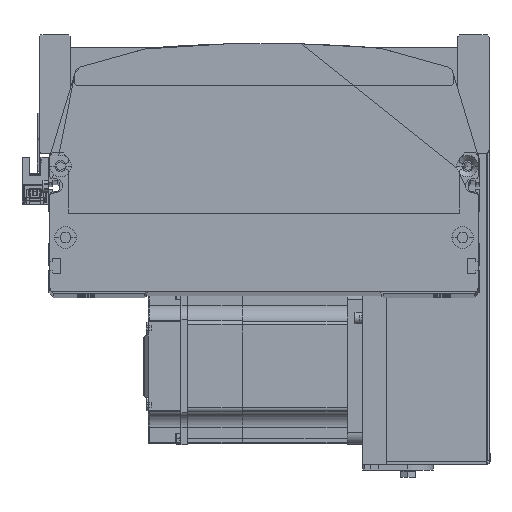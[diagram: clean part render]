
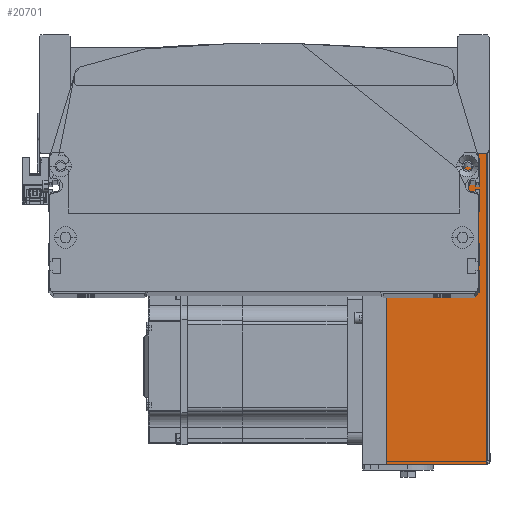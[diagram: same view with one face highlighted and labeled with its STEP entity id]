
A CAD part, top view. The second image highlights one B-rep face of the part: STEP entity #20701.
In plain terms, the highlighted planar face has unit normal (0, 0, 1) as drawn and (0, 1, 0) by its records, which use the part's own axes.
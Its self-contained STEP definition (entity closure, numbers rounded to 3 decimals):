
#875 = VERTEX_POINT ( 'NONE', #29981 ) ;
#3419 = ORIENTED_EDGE ( 'NONE', *, *, #5247, .T. ) ;
#5247 = EDGE_CURVE ( 'NONE', #39890, #7548, #11392, .T. ) ;
#7548 = VERTEX_POINT ( 'NONE', #30618 ) ;
#7785 = DIRECTION ( 'NONE',  ( 0., 0., -1. ) ) ;
#7891 = EDGE_CURVE ( 'NONE', #875, #14668, #13238, .T. ) ;
#8803 = ORIENTED_EDGE ( 'NONE', *, *, #26137, .F. ) ;
#8989 = ORIENTED_EDGE ( 'NONE', *, *, #11803, .T. ) ;
#9175 = DIRECTION ( 'NONE',  ( 0., -1., 0. ) ) ;
#11357 = DIRECTION ( 'NONE',  ( -1., 0., 0. ) ) ;
#11392 = LINE ( 'NONE', #50471, #44805 ) ;
#11803 = EDGE_CURVE ( 'NONE', #7548, #14668, #23803, .T. ) ;
#12482 = CARTESIAN_POINT ( 'NONE',  ( -102.5, 54., 63.3 ) ) ;
#13238 = LINE ( 'NONE', #12482, #18157 ) ;
#14668 = VERTEX_POINT ( 'NONE', #46554 ) ;
#14748 = LINE ( 'NONE', #27681, #51170 ) ;
#18157 = VECTOR ( 'NONE', #28776, 1000. ) ;
#20685 = DIRECTION ( 'NONE',  ( -1., 0., 0. ) ) ;
#20701 = ADVANCED_FACE ( 'NONE', ( #21074 ), #28831, .F. ) ;
#20830 = DIRECTION ( 'NONE',  ( 0., 0., 1. ) ) ;
#20884 = VECTOR ( 'NONE', #20685, 1000. ) ;
#21003 = AXIS2_PLACEMENT_3D ( 'NONE', #32480, #9175, #20830 ) ;
#21074 = FACE_OUTER_BOUND ( 'NONE', #42666, .T. ) ;
#23803 = LINE ( 'NONE', #32591, #20884 ) ;
#24937 = CARTESIAN_POINT ( 'NONE',  ( 102.5, 54., 63.3 ) ) ;
#26137 = EDGE_CURVE ( 'NONE', #39890, #875, #14748, .T. ) ;
#27681 = CARTESIAN_POINT ( 'NONE',  ( -102.5, 54., 63.3 ) ) ;
#28776 = DIRECTION ( 'NONE',  ( 0., 0., -1. ) ) ;
#28831 = PLANE ( 'NONE',  #21003 ) ;
#29981 = CARTESIAN_POINT ( 'NONE',  ( -102.5, 54., 63.3 ) ) ;
#30618 = CARTESIAN_POINT ( 'NONE',  ( 102.5, 54., 12. ) ) ;
#32480 = CARTESIAN_POINT ( 'NONE',  ( 0., 54., 63.8 ) ) ;
#32591 = CARTESIAN_POINT ( 'NONE',  ( 0., 54., 12. ) ) ;
#39210 = ORIENTED_EDGE ( 'NONE', *, *, #7891, .F. ) ;
#39890 = VERTEX_POINT ( 'NONE', #24937 ) ;
#42666 = EDGE_LOOP ( 'NONE', ( #8803, #3419, #8989, #39210 ) ) ;
#44805 = VECTOR ( 'NONE', #7785, 1000. ) ;
#46554 = CARTESIAN_POINT ( 'NONE',  ( -102.5, 54., 12. ) ) ;
#50471 = CARTESIAN_POINT ( 'NONE',  ( 102.5, 54., 63.3 ) ) ;
#51170 = VECTOR ( 'NONE', #11357, 1000. ) ;
